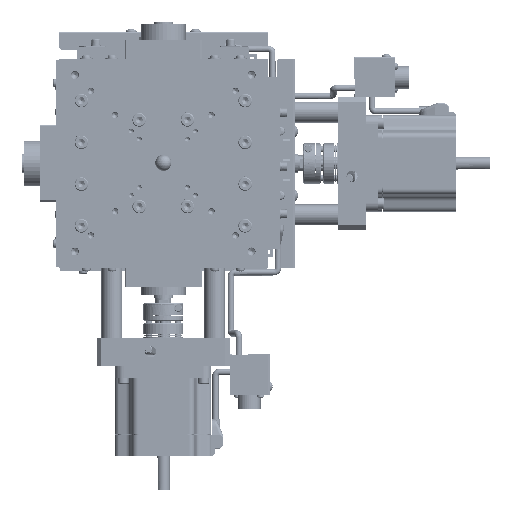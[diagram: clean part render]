
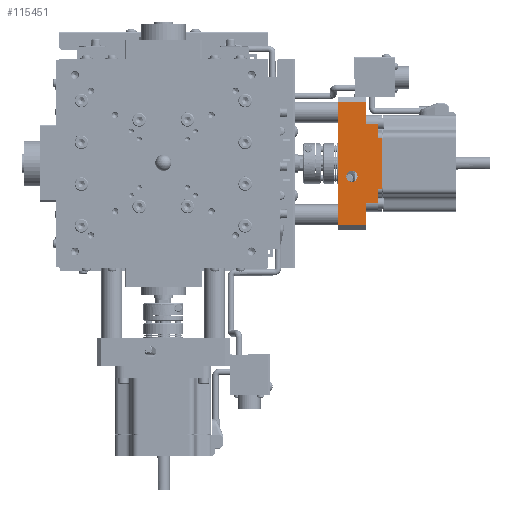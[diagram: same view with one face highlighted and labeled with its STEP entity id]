
A CAD part, top view. The second image highlights one B-rep face of the part: STEP entity #115451.
In plain terms, the highlighted planar face has unit normal (0, 0, 1).
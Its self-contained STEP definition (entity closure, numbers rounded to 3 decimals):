
#1451 = VERTEX_POINT ( 'NONE', #71588 ) ;
#4232 = VERTEX_POINT ( 'NONE', #83833 ) ;
#5941 = EDGE_CURVE ( 'NONE', #79522, #113962, #21179, .T. ) ;
#6329 = DIRECTION ( 'NONE',  ( 0., 0., -1. ) ) ;
#6565 = EDGE_CURVE ( 'NONE', #4232, #113962, #155530, .T. ) ;
#6974 = EDGE_CURVE ( 'NONE', #107820, #71843, #100005, .T. ) ;
#9416 = DIRECTION ( 'NONE',  ( -1., 0., 0. ) ) ;
#10335 = LINE ( 'NONE', #49402, #110485 ) ;
#10678 = LINE ( 'NONE', #138198, #42702 ) ;
#11396 = DIRECTION ( 'NONE',  ( 0., -1., 0. ) ) ;
#12047 = DIRECTION ( 'NONE',  ( -1., 0., 0. ) ) ;
#12666 = VECTOR ( 'NONE', #151270, 1000. ) ;
#15516 = CARTESIAN_POINT ( 'NONE',  ( -282.531, 21.788, -380.54 ) ) ;
#17181 = ORIENTED_EDGE ( 'NONE', *, *, #143910, .T. ) ;
#18267 = VERTEX_POINT ( 'NONE', #162221 ) ;
#21179 = LINE ( 'NONE', #37352, #87331 ) ;
#22590 = ORIENTED_EDGE ( 'NONE', *, *, #123822, .T. ) ;
#22816 = VECTOR ( 'NONE', #68183, 1000. ) ;
#24697 = EDGE_CURVE ( 'NONE', #162386, #100581, #112763, .T. ) ;
#25847 = CARTESIAN_POINT ( 'NONE',  ( -310.031, 47.299, -380.54 ) ) ;
#27694 = ORIENTED_EDGE ( 'NONE', *, *, #5941, .F. ) ;
#33691 = DIRECTION ( 'NONE',  ( 0., 1., 0. ) ) ;
#34699 = AXIS2_PLACEMENT_3D ( 'NONE', #127219, #6329, #33691 ) ;
#36101 = ORIENTED_EDGE ( 'NONE', *, *, #72056, .T. ) ;
#36322 = VERTEX_POINT ( 'NONE', #43114 ) ;
#37352 = CARTESIAN_POINT ( 'NONE',  ( -285.531, 30.299, -380.54 ) ) ;
#39586 = DIRECTION ( 'NONE',  ( 0., -1., 0. ) ) ;
#42702 = VECTOR ( 'NONE', #70317, 1000. ) ;
#43114 = CARTESIAN_POINT ( 'NONE',  ( -292.531, 44.299, -380.54 ) ) ;
#43486 = VERTEX_POINT ( 'NONE', #159515 ) ;
#46964 = VERTEX_POINT ( 'NONE', #53542 ) ;
#47759 = EDGE_CURVE ( 'NONE', #59388, #162386, #52765, .T. ) ;
#48125 = PLANE ( 'NONE',  #58901 ) ;
#48517 = DIRECTION ( 'NONE',  ( 0., -1., 0. ) ) ;
#49402 = CARTESIAN_POINT ( 'NONE',  ( -285.531, 30.299, -380.54 ) ) ;
#49698 = FACE_OUTER_BOUND ( 'NONE', #77252, .T. ) ;
#49801 = CARTESIAN_POINT ( 'NONE',  ( -301.531, -2.201, -380.54 ) ) ;
#50560 = CARTESIAN_POINT ( 'NONE',  ( -282.531, -10.19, -380.54 ) ) ;
#52765 = LINE ( 'NONE', #137232, #22816 ) ;
#53542 = CARTESIAN_POINT ( 'NONE',  ( -301.531, -5.701, -380.54 ) ) ;
#53617 = CARTESIAN_POINT ( 'NONE',  ( -301.281, 44.299, -380.54 ) ) ;
#53653 = CIRCLE ( 'NONE', #34699, 3.5 ) ;
#54873 = CARTESIAN_POINT ( 'NONE',  ( -285.531, -18.701, -380.54 ) ) ;
#56040 = DIRECTION ( 'NONE',  ( 0., -1., 0. ) ) ;
#58901 = AXIS2_PLACEMENT_3D ( 'NONE', #143322, #120415, #12047 ) ;
#59259 = VERTEX_POINT ( 'NONE', #148341 ) ;
#59388 = VERTEX_POINT ( 'NONE', #54873 ) ;
#62236 = EDGE_CURVE ( 'NONE', #4232, #107820, #70905, .T. ) ;
#64222 = DIRECTION ( 'NONE',  ( -1., 0., 0. ) ) ;
#66082 = DIRECTION ( 'NONE',  ( 1., 0., 0. ) ) ;
#66588 = VECTOR ( 'NONE', #56040, 1000. ) ;
#66878 = VECTOR ( 'NONE', #48517, 1000. ) ;
#68183 = DIRECTION ( 'NONE',  ( -1., 0., 0. ) ) ;
#69233 = ORIENTED_EDGE ( 'NONE', *, *, #95422, .T. ) ;
#70317 = DIRECTION ( 'NONE',  ( 0., -1., 0. ) ) ;
#70905 = LINE ( 'NONE', #15516, #66588 ) ;
#71205 = LINE ( 'NONE', #89531, #66878 ) ;
#71588 = CARTESIAN_POINT ( 'NONE',  ( -310.031, -32.701, -380.54 ) ) ;
#71843 = VERTEX_POINT ( 'NONE', #152016 ) ;
#72056 = EDGE_CURVE ( 'NONE', #59259, #1451, #85928, .T. ) ;
#73615 = EDGE_CURVE ( 'NONE', #71843, #59388, #10678, .T. ) ;
#77252 = EDGE_LOOP ( 'NONE', ( #124774, #136439, #27694, #22590, #151750, #135180, #36101, #69233, #110969, #164765, #135674, #117312 ) ) ;
#78047 = CARTESIAN_POINT ( 'NONE',  ( -292.531, -18.701, -380.54 ) ) ;
#79522 = VERTEX_POINT ( 'NONE', #97611 ) ;
#83833 = CARTESIAN_POINT ( 'NONE',  ( -282.531, 21.788, -380.54 ) ) ;
#85928 = LINE ( 'NONE', #25847, #119829 ) ;
#87003 = EDGE_CURVE ( 'NONE', #36322, #43486, #71205, .T. ) ;
#87331 = VECTOR ( 'NONE', #116619, 1000. ) ;
#89531 = CARTESIAN_POINT ( 'NONE',  ( -292.531, 47.299, -380.54 ) ) ;
#92947 = CARTESIAN_POINT ( 'NONE',  ( -292.531, 47.299, -380.54 ) ) ;
#95422 = EDGE_CURVE ( 'NONE', #1451, #100581, #138478, .T. ) ;
#95705 = VECTOR ( 'NONE', #11396, 1000. ) ;
#97611 = CARTESIAN_POINT ( 'NONE',  ( -285.531, 30.299, -380.54 ) ) ;
#97632 = CARTESIAN_POINT ( 'NONE',  ( -292.531, -32.701, -380.54 ) ) ;
#98029 = CARTESIAN_POINT ( 'NONE',  ( -282.531, -10.19, -380.54 ) ) ;
#100005 = LINE ( 'NONE', #50560, #138262 ) ;
#100581 = VERTEX_POINT ( 'NONE', #97632 ) ;
#104551 = EDGE_CURVE ( 'NONE', #46964, #18267, #164297, .T. ) ;
#107820 = VERTEX_POINT ( 'NONE', #98029 ) ;
#110192 = CARTESIAN_POINT ( 'NONE',  ( -282.531, 21.788, -380.54 ) ) ;
#110485 = VECTOR ( 'NONE', #9416, 1000. ) ;
#110969 = ORIENTED_EDGE ( 'NONE', *, *, #24697, .F. ) ;
#112312 = EDGE_CURVE ( 'NONE', #36322, #59259, #131351, .T. ) ;
#112479 = ORIENTED_EDGE ( 'NONE', *, *, #104551, .T. ) ;
#112763 = LINE ( 'NONE', #92947, #95705 ) ;
#113962 = VERTEX_POINT ( 'NONE', #133692 ) ;
#115451 = ADVANCED_FACE ( 'NONE', ( #49698, #154052 ), #48125, .T. ) ;
#116619 = DIRECTION ( 'NONE',  ( 0., -1., 0. ) ) ;
#117312 = ORIENTED_EDGE ( 'NONE', *, *, #6974, .F. ) ;
#119829 = VECTOR ( 'NONE', #39586, 1000. ) ;
#120415 = DIRECTION ( 'NONE',  ( 0., 0., 1. ) ) ;
#123822 = EDGE_CURVE ( 'NONE', #79522, #43486, #10335, .T. ) ;
#124774 = ORIENTED_EDGE ( 'NONE', *, *, #62236, .F. ) ;
#127219 = CARTESIAN_POINT ( 'NONE',  ( -301.531, -2.201, -380.54 ) ) ;
#127934 = EDGE_LOOP ( 'NONE', ( #112479, #17181 ) ) ;
#131351 = LINE ( 'NONE', #53617, #161207 ) ;
#133692 = CARTESIAN_POINT ( 'NONE',  ( -285.531, 21.788, -380.54 ) ) ;
#135180 = ORIENTED_EDGE ( 'NONE', *, *, #112312, .T. ) ;
#135674 = ORIENTED_EDGE ( 'NONE', *, *, #73615, .F. ) ;
#136439 = ORIENTED_EDGE ( 'NONE', *, *, #6565, .T. ) ;
#137232 = CARTESIAN_POINT ( 'NONE',  ( -285.531, -18.701, -380.54 ) ) ;
#138198 = CARTESIAN_POINT ( 'NONE',  ( -285.531, -10.19, -380.54 ) ) ;
#138262 = VECTOR ( 'NONE', #64222, 1000. ) ;
#138478 = LINE ( 'NONE', #147056, #161855 ) ;
#143322 = CARTESIAN_POINT ( 'NONE',  ( -250.023, 43.306, -380.54 ) ) ;
#143910 = EDGE_CURVE ( 'NONE', #18267, #46964, #53653, .T. ) ;
#147056 = CARTESIAN_POINT ( 'NONE',  ( -301.281, -32.701, -380.54 ) ) ;
#148341 = CARTESIAN_POINT ( 'NONE',  ( -310.031, 44.299, -380.54 ) ) ;
#148846 = DIRECTION ( 'NONE',  ( -1., 0., 0. ) ) ;
#151270 = DIRECTION ( 'NONE',  ( -1., 0., 0. ) ) ;
#151750 = ORIENTED_EDGE ( 'NONE', *, *, #87003, .F. ) ;
#152016 = CARTESIAN_POINT ( 'NONE',  ( -285.531, -10.19, -380.54 ) ) ;
#154052 = FACE_BOUND ( 'NONE', #127934, .T. ) ;
#155530 = LINE ( 'NONE', #110192, #12666 ) ;
#159515 = CARTESIAN_POINT ( 'NONE',  ( -292.531, 30.299, -380.54 ) ) ;
#161207 = VECTOR ( 'NONE', #148846, 1000. ) ;
#161855 = VECTOR ( 'NONE', #66082, 1000. ) ;
#162221 = CARTESIAN_POINT ( 'NONE',  ( -301.531, 1.299, -380.54 ) ) ;
#162386 = VERTEX_POINT ( 'NONE', #78047 ) ;
#164297 = CIRCLE ( 'NONE', #169471, 3.5 ) ;
#164765 = ORIENTED_EDGE ( 'NONE', *, *, #47759, .F. ) ;
#169471 = AXIS2_PLACEMENT_3D ( 'NONE', #49801, #172927, #173512 ) ;
#172927 = DIRECTION ( 'NONE',  ( 0., 0., -1. ) ) ;
#173512 = DIRECTION ( 'NONE',  ( 0., 1., 0. ) ) ;
